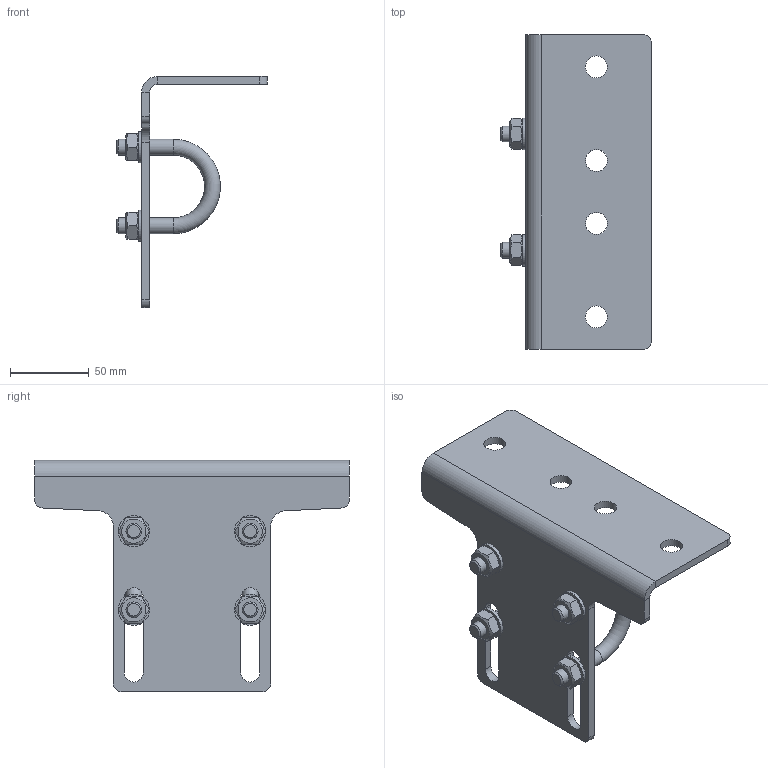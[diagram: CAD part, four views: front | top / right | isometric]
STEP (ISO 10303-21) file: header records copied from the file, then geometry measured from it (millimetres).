
FILE_DESCRIPTION(/* description */ (''),/* implementation_level */ '2;1');
FILE_NAME(/* name */ 'D:\VDV Techniek\Documents\Inventor\_ISP_Products\UDG on Round Tube Kit\Round tube kit original\STP\Round tube 35mm-in-Mounting bracket.stp',/* time_stamp */ '2022-12-29T15:03:39+01:00',/* author */ ('jos'),/* organization */ (''),/* preprocessor_version */ 'ST-DEVELOPER v15.2',/* originating_system */ 'Autodesk Inventor 2014',/* authorisation */ '');
FILE_SCHEMA (('AUTOMOTIVE_DESIGN { 1 0 10303 214 3 1 1 }'));
Length unit declared in the file: millimetre
Products named in the file (5): UDG_Mounting_Bracket_universal_HDG; Krambeugel 38mm; DIN 125 - A 10,5; DIN 934 - M10 x 1,5; Round tube 35mm-in-Mounting bracket
Assembly tree (11 placements, depth 2):
  Round tube 35mm-in-Mounting bracket
    UDG_Mounting_Bracket_universal_HDG
    Krambeugel 38mm  x2
    DIN 125 - A 10,5  x4
    DIN 934 - M10 x 1,5  x4
Bounding box: 96 x 200 x 147 mm (x, y, z)
Volume: 181225.1 mm3; surface area: 82818.3 mm2
Topology: 11 solids, 11 shells, 122 faces, 272 edges, 172 vertices
Faces by surface type: plane 64, cylinder 36, cone 20, torus 2
Full cylindrical faces by diameter (mm): 8.376 x4, 10 x4, 10.5 x4, 12 x2, 14 x4, 20 x4
Entity records: 1959 total; most frequent: DIRECTION 338, CARTESIAN_POINT 334, ORIENTED_EDGE 268, AXIS2_PLACEMENT_3D 136, EDGE_CURVE 134, EDGE_LOOP 102, VERTEX_POINT 96, LINE 66
